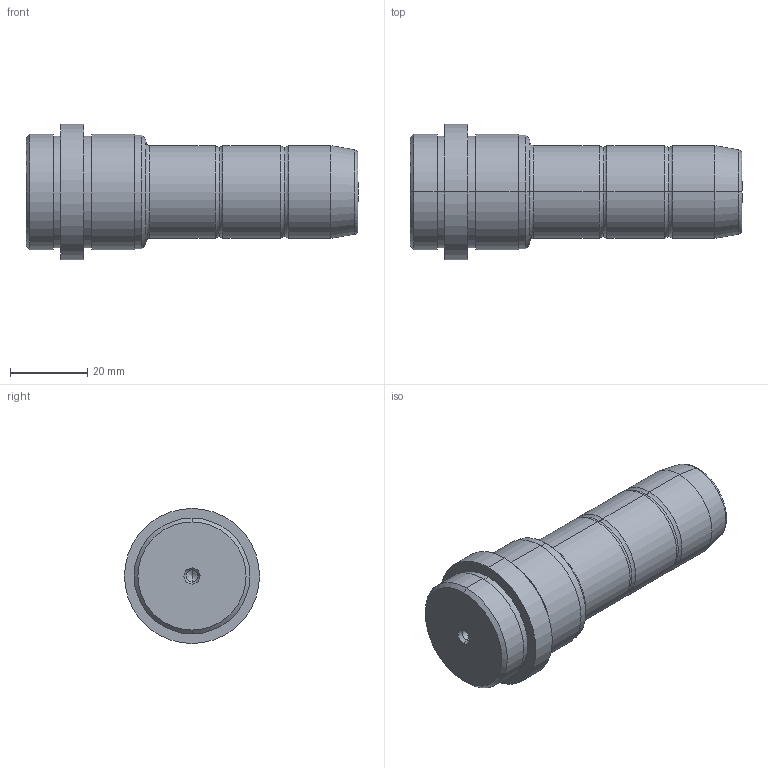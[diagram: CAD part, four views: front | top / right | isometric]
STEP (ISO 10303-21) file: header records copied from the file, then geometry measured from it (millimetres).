
FILE_DESCRIPTION( ( 'STEP AP203' ), '1' );
FILE_NAME( 'C:/Projects/D03 - 24x22x55.step', '2003-01-03T21:05:11', ( ' ' ), ( ' ' ), 'XStep 1.0', ' ', ' ' );
FILE_SCHEMA( ( 'CONFIG_CONTROL_DESIGN' ) );
Length unit declared in the file: metre
Products named in the file (1): 1
Bounding box: 86 x 35 x 35 mm (x, y, z)
Volume: 47546.4 mm3; surface area: 9072 mm2
Topology: 1 solids, 1 shells, 56 faces, 112 edges, 64 vertices
Faces by surface type: revolution 36, bspline 20
Entity records: 1691 total; most frequent: CARTESIAN_POINT 513, ORIENTED_EDGE 220, DIRECTION 218, EDGE_CURVE 110, AXIS2_PLACEMENT_3D 73, CIRCLE 72, EDGE_LOOP 64, VERTEX_POINT 64
